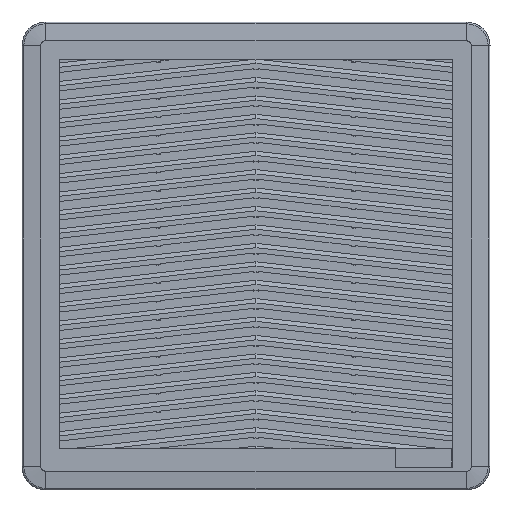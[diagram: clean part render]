
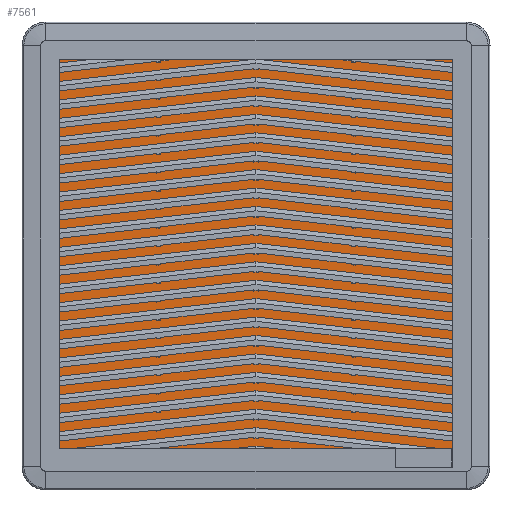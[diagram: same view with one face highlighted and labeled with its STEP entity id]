
A CAD part, front view. The second image highlights one B-rep face of the part: STEP entity #7561.
In plain terms, the highlighted planar face has unit normal (0, -1, 0) as drawn and (0, 0, 1) by its records, which use the part's own axes.
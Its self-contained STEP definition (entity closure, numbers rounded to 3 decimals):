
#119 = VECTOR ( 'NONE', #30552, 1000. ) ;
#437 = CARTESIAN_POINT ( 'NONE',  ( -111.96, -122.54, 6.009 ) ) ;
#1694 = CARTESIAN_POINT ( 'NONE',  ( 112.04, 114.46, 6.009 ) ) ;
#1891 = DIRECTION ( 'NONE',  ( 0., 0., -1. ) ) ;
#2016 = AXIS2_PLACEMENT_3D ( 'NONE', #16119, #32016, #12700 ) ;
#4141 = EDGE_CURVE ( 'NONE', #32684, #34146, #18502, .T. ) ;
#5104 = VECTOR ( 'NONE', #11628, 1000. ) ;
#5436 = CARTESIAN_POINT ( 'NONE',  ( -122.46, 114.46, 6.009 ) ) ;
#5912 = LINE ( 'NONE', #34942, #5104 ) ;
#6485 = VERTEX_POINT ( 'NONE', #21992 ) ;
#6619 = CARTESIAN_POINT ( 'NONE',  ( 112.04, -122.54, 6.009 ) ) ;
#6846 = ORIENTED_EDGE ( 'NONE', *, *, #35487, .F. ) ;
#7041 = DIRECTION ( 'NONE',  ( 0., 0., -1. ) ) ;
#7561 = ADVANCED_FACE ( 'NONE', ( #19303 ), #32236, .T. ) ;
#7631 = DIRECTION ( 'NONE',  ( 1., 0., 0. ) ) ;
#8450 = CARTESIAN_POINT ( 'NONE',  ( -111.96, 114.46, 6.009 ) ) ;
#8659 = EDGE_CURVE ( 'NONE', #6485, #41280, #5912, .T. ) ;
#11058 = ORIENTED_EDGE ( 'NONE', *, *, #12964, .F. ) ;
#11628 = DIRECTION ( 'NONE',  ( 0., -1., 0. ) ) ;
#11678 = AXIS2_PLACEMENT_3D ( 'NONE', #28455, #34986, #22485 ) ;
#11976 = CARTESIAN_POINT ( 'NONE',  ( -111.96, 124.96, 6.009 ) ) ;
#12542 = LINE ( 'NONE', #6619, #18573 ) ;
#12700 = DIRECTION ( 'NONE',  ( 1., 0., 0. ) ) ;
#12777 = CIRCLE ( 'NONE', #17521, 10.5 ) ;
#12964 = EDGE_CURVE ( 'NONE', #23775, #32684, #12777, .T. ) ;
#13162 = AXIS2_PLACEMENT_3D ( 'NONE', #32265, #7041, #20196 ) ;
#13930 = VERTEX_POINT ( 'NONE', #39226 ) ;
#14212 = LINE ( 'NONE', #17191, #119 ) ;
#14796 = EDGE_CURVE ( 'NONE', #13930, #23775, #14212, .T. ) ;
#15089 = CIRCLE ( 'NONE', #11678, 10.5 ) ;
#16119 = CARTESIAN_POINT ( 'NONE',  ( 0.04, -0.04, 6.009 ) ) ;
#16736 = ORIENTED_EDGE ( 'NONE', *, *, #16806, .F. ) ;
#16806 = EDGE_CURVE ( 'NONE', #20090, #13930, #21961, .T. ) ;
#17191 = CARTESIAN_POINT ( 'NONE',  ( -122.46, -112.04, 6.009 ) ) ;
#17276 = ORIENTED_EDGE ( 'NONE', *, *, #33656, .F. ) ;
#17521 = AXIS2_PLACEMENT_3D ( 'NONE', #8450, #1891, #21396 ) ;
#18300 = CARTESIAN_POINT ( 'NONE',  ( -111.96, 124.96, 6.009 ) ) ;
#18502 = LINE ( 'NONE', #18300, #21265 ) ;
#18573 = VECTOR ( 'NONE', #32059, 1000. ) ;
#19303 = FACE_OUTER_BOUND ( 'NONE', #41634, .T. ) ;
#19999 = VERTEX_POINT ( 'NONE', #41753 ) ;
#20090 = VERTEX_POINT ( 'NONE', #437 ) ;
#20196 = DIRECTION ( 'NONE',  ( 1., 0., 0. ) ) ;
#20218 = CARTESIAN_POINT ( 'NONE',  ( 112.04, 124.96, 6.009 ) ) ;
#20581 = DIRECTION ( 'NONE',  ( 0., 0., -1. ) ) ;
#21265 = VECTOR ( 'NONE', #21705, 1000. ) ;
#21396 = DIRECTION ( 'NONE',  ( 1., 0., 0. ) ) ;
#21705 = DIRECTION ( 'NONE',  ( 1., 0., 0. ) ) ;
#21961 = CIRCLE ( 'NONE', #13162, 10.5 ) ;
#21992 = CARTESIAN_POINT ( 'NONE',  ( 122.54, 114.46, 6.009 ) ) ;
#22485 = DIRECTION ( 'NONE',  ( 1., 0., 0. ) ) ;
#23083 = ORIENTED_EDGE ( 'NONE', *, *, #4141, .F. ) ;
#23775 = VERTEX_POINT ( 'NONE', #5436 ) ;
#25237 = CIRCLE ( 'NONE', #35363, 10.5 ) ;
#27076 = ORIENTED_EDGE ( 'NONE', *, *, #14796, .F. ) ;
#27831 = EDGE_CURVE ( 'NONE', #41280, #19999, #15089, .T. ) ;
#28194 = ORIENTED_EDGE ( 'NONE', *, *, #27831, .F. ) ;
#28455 = CARTESIAN_POINT ( 'NONE',  ( 112.04, -112.04, 6.009 ) ) ;
#30552 = DIRECTION ( 'NONE',  ( 0., 1., 0. ) ) ;
#32016 = DIRECTION ( 'NONE',  ( 0., 0., 1. ) ) ;
#32059 = DIRECTION ( 'NONE',  ( -1., 0., 0. ) ) ;
#32236 = PLANE ( 'NONE',  #2016 ) ;
#32247 = CARTESIAN_POINT ( 'NONE',  ( 122.54, -112.04, 6.009 ) ) ;
#32265 = CARTESIAN_POINT ( 'NONE',  ( -111.96, -112.04, 6.009 ) ) ;
#32684 = VERTEX_POINT ( 'NONE', #11976 ) ;
#33656 = EDGE_CURVE ( 'NONE', #34146, #6485, #25237, .T. ) ;
#33878 = ORIENTED_EDGE ( 'NONE', *, *, #8659, .F. ) ;
#34146 = VERTEX_POINT ( 'NONE', #20218 ) ;
#34942 = CARTESIAN_POINT ( 'NONE',  ( 122.54, -112.04, 6.009 ) ) ;
#34986 = DIRECTION ( 'NONE',  ( 0., 0., -1. ) ) ;
#35363 = AXIS2_PLACEMENT_3D ( 'NONE', #1694, #20581, #7631 ) ;
#35487 = EDGE_CURVE ( 'NONE', #19999, #20090, #12542, .T. ) ;
#39226 = CARTESIAN_POINT ( 'NONE',  ( -122.46, -112.04, 6.009 ) ) ;
#41280 = VERTEX_POINT ( 'NONE', #32247 ) ;
#41634 = EDGE_LOOP ( 'NONE', ( #11058, #27076, #16736, #6846, #28194, #33878, #17276, #23083 ) ) ;
#41753 = CARTESIAN_POINT ( 'NONE',  ( 112.04, -122.54, 6.009 ) ) ;
